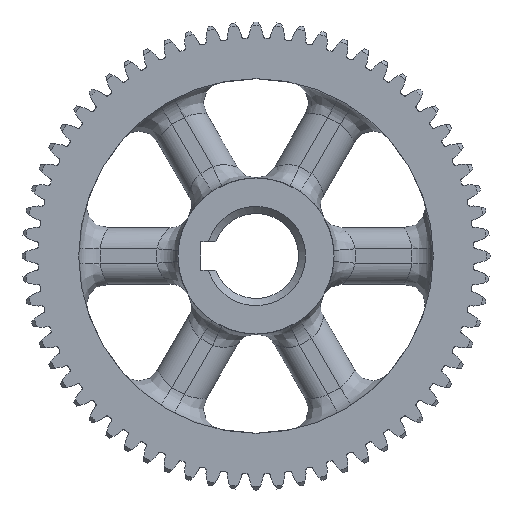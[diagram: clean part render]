
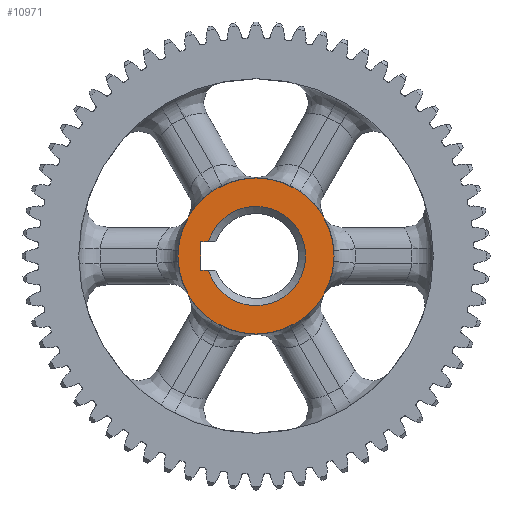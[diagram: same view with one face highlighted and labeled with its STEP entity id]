
A CAD part, left-side view. The second image highlights one B-rep face of the part: STEP entity #10971.
In plain terms, the highlighted planar face has unit normal (-1, 0, 0).
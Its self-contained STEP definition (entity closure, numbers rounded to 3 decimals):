
#386=FACE_BOUND('',#2851,.T.);
#791=LINE('',#16176,#1213);
#793=LINE('',#16189,#1215);
#796=LINE('',#16194,#1218);
#1213=VECTOR('',#12586,10.);
#1215=VECTOR('',#12598,10.);
#1218=VECTOR('',#12603,10.);
#1649=PLANE('',#12571);
#2246=FACE_OUTER_BOUND('',#2850,.T.);
#2850=EDGE_LOOP('',(#9856));
#2851=EDGE_LOOP('',(#9857,#9858,#9859,#9860));
#2854=CIRCLE('',#10997,7.);
#2879=CIRCLE('',#11034,11.);
#3863=VERTEX_POINT('',#16154);
#3864=VERTEX_POINT('',#16158);
#3869=VERTEX_POINT('',#16174);
#3872=VERTEX_POINT('',#16188);
#3913=VERTEX_POINT('',#16558);
#5009=EDGE_CURVE('',#3863,#3864,#2854,.T.);
#5016=EDGE_CURVE('',#3863,#3869,#791,.T.);
#5021=EDGE_CURVE('',#3872,#3864,#793,.T.);
#5024=EDGE_CURVE('',#3869,#3872,#796,.T.);
#5078=EDGE_CURVE('',#3913,#3913,#2879,.T.);
#9856=ORIENTED_EDGE('',*,*,#5078,.F.);
#9857=ORIENTED_EDGE('',*,*,#5009,.F.);
#9858=ORIENTED_EDGE('',*,*,#5016,.T.);
#9859=ORIENTED_EDGE('',*,*,#5024,.T.);
#9860=ORIENTED_EDGE('',*,*,#5021,.T.);
#10971=ADVANCED_FACE('',(#2246,#386),#1649,.T.);
#10997=AXIS2_PLACEMENT_3D('',#16159,#12577,#12578);
#11034=AXIS2_PLACEMENT_3D('',#16560,#12666,#12667);
#12571=AXIS2_PLACEMENT_3D('',#22179,#16147,#16148);
#12577=DIRECTION('center_axis',(-1.,0.,0.));
#12578=DIRECTION('ref_axis',(0.,-1.,0.));
#12586=DIRECTION('',(0.,1.,0.));
#12598=DIRECTION('',(0.,-1.,0.));
#12603=DIRECTION('',(0.,0.,1.));
#12666=DIRECTION('center_axis',(1.,0.,0.));
#12667=DIRECTION('ref_axis',(0.,0.,-1.));
#16147=DIRECTION('center_axis',(-1.,0.,0.));
#16148=DIRECTION('ref_axis',(0.,0.,1.));
#16154=CARTESIAN_POINT('',(-8.,6.708,-2.));
#16158=CARTESIAN_POINT('',(-8.,6.708,2.));
#16159=CARTESIAN_POINT('Origin',(-8.,0.,0.));
#16174=CARTESIAN_POINT('',(-8.,7.8,-2.));
#16176=CARTESIAN_POINT('',(-8.,9.4,-2.));
#16188=CARTESIAN_POINT('',(-8.,7.8,2.));
#16189=CARTESIAN_POINT('',(-8.,8.328,2.));
#16194=CARTESIAN_POINT('',(-8.,7.8,1.));
#16558=CARTESIAN_POINT('',(-8.,-11.,0.));
#16560=CARTESIAN_POINT('Origin',(-8.,0.,0.));
#22179=CARTESIAN_POINT('Origin',(-8.,11.,0.));
